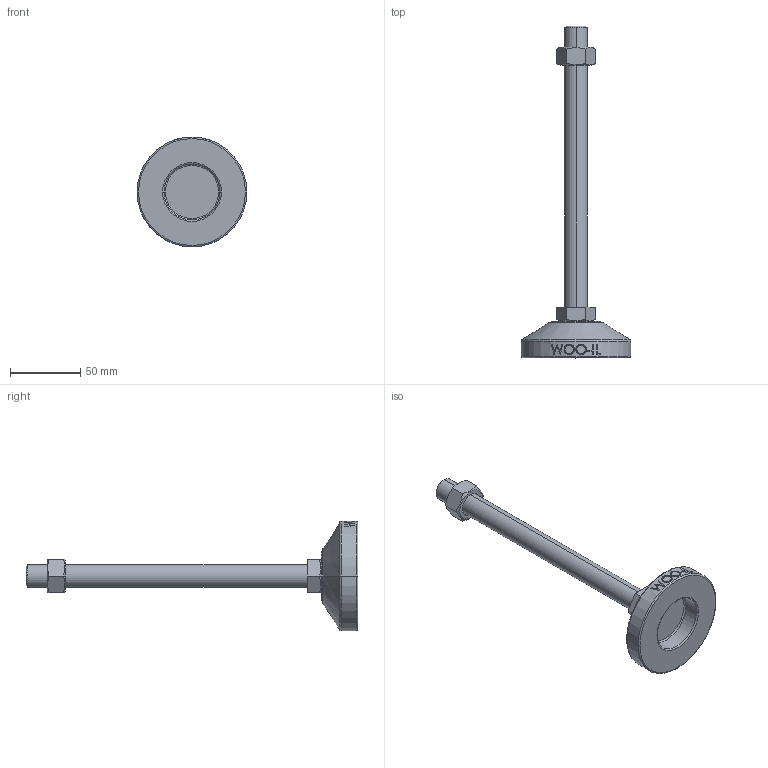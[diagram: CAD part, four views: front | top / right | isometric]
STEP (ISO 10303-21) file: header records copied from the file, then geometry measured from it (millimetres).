
FILE_DESCRIPTION (( 'STEP AP214' ), '1' );
FILE_NAME ('MF78-M16-200.step', '2021-02-03T08:20:51', ( '' ), ( '' ), 'SwSTEP 2.0', 'SolidWorks 2019', '' );
FILE_SCHEMA (( 'AUTOMOTIVE_DESIGN' ));
Length unit declared in the file: millimetre
Products named in the file (2): MF78-M16-200
Bounding box: 78 x 236 x 78 mm (x, y, z)
Volume: 128817.5 mm3; surface area: 28774.6 mm2
Topology: 3 solids, 3 shells, 106 faces, 243 edges, 154 vertices
Faces by surface type: plane 48, cylinder 18, bspline 16, cone 14, torus 10
Entity records: 4520 total; most frequent: CARTESIAN_POINT 2177, ORIENTED_EDGE 486, DIRECTION 439, EDGE_CURVE 243, AXIS2_PLACEMENT_3D 170, VERTEX_POINT 154, EDGE_LOOP 119, ADVANCED_FACE 106
